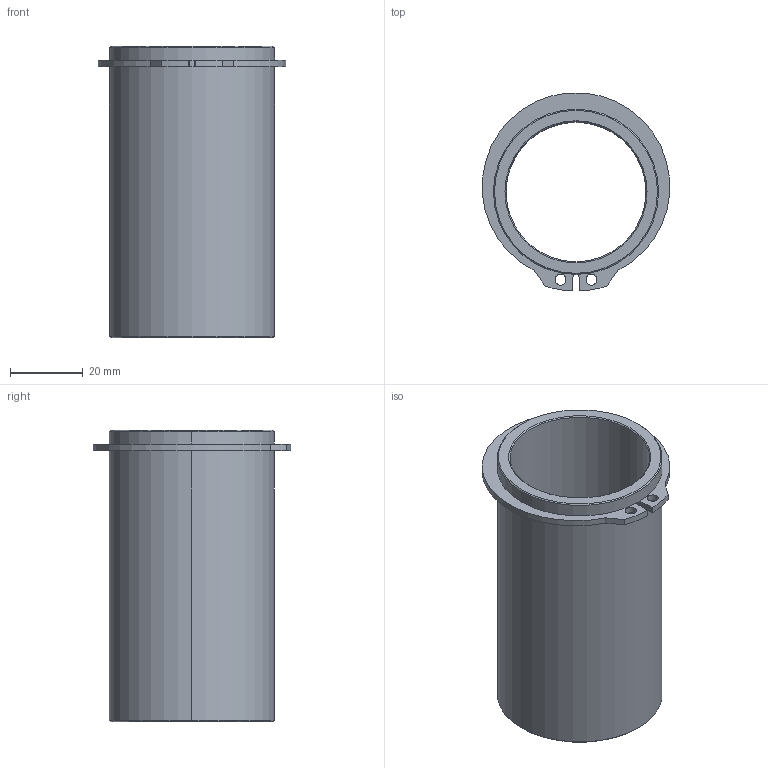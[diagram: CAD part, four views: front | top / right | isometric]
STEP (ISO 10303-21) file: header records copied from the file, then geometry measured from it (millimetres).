
FILE_DESCRIPTION((''),'2;1');
FILE_NAME('C13_038_080.stp','2008-12-17T15:26:02',(''),(''),'Mechanical Desktop 2009','Mechanical Desktop 2009',', , ');
FILE_SCHEMA(('CONFIG_CONTROL_DESIGN'));
Length unit declared in the file: millimetre
Products named in the file (2): Product; blmdl1
Assembly tree (1 placements, depth 2):
  Product
    blmdl1
Bounding box: 51.33 x 54.26 x 80 mm (x, y, z)
Volume: 37093.9 mm3; surface area: 23923.9 mm2
Topology: 2 solids, 2 shells, 34 faces, 76 edges, 48 vertices
Faces by surface type: cylinder 16, plane 10, cone 8
Entity records: 1075 total; most frequent: DIRECTION 188, CARTESIAN_POINT 160, ORIENTED_EDGE 152, AXIS2_PLACEMENT_3D 76, EDGE_CURVE 76, VERTEX_POINT 48, EDGE_LOOP 42, CIRCLE 40
